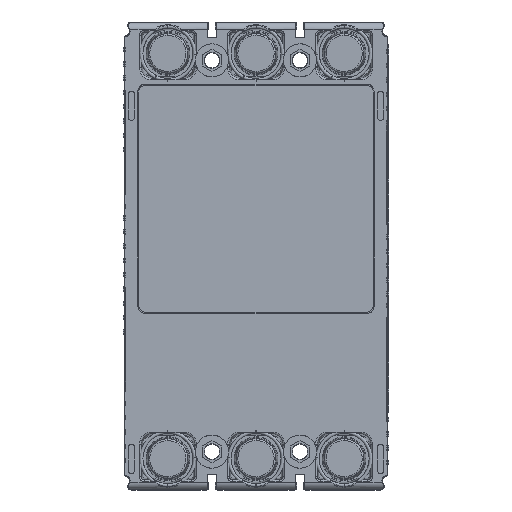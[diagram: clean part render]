
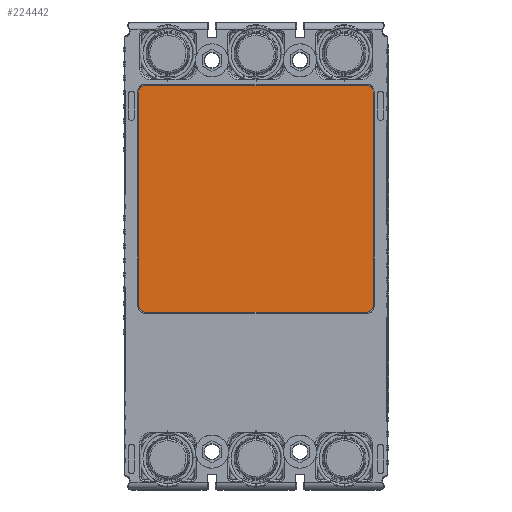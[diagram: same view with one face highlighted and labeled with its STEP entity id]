
A CAD part, front view. The second image highlights one B-rep face of the part: STEP entity #224442.
In plain terms, the highlighted planar face has unit normal (0, -1, 0).
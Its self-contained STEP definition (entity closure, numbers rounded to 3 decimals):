
#70 = CARTESIAN_POINT ( 'NONE',  ( 20.22, -12.927, 116.503 ) ) ;
#364 = VERTEX_POINT ( 'NONE', #126642 ) ;
#683 = ORIENTED_EDGE ( 'NONE', *, *, #118038, .F. ) ;
#2423 = ORIENTED_EDGE ( 'NONE', *, *, #121471, .F. ) ;
#4024 = AXIS2_PLACEMENT_3D ( 'NONE', #155577, #152324, #229033 ) ;
#7024 = ORIENTED_EDGE ( 'NONE', *, *, #239215, .F. ) ;
#12629 = EDGE_CURVE ( 'NONE', #54518, #116820, #139356, .T. ) ;
#12967 = VERTEX_POINT ( 'NONE', #232782 ) ;
#16449 = CARTESIAN_POINT ( 'NONE',  ( -46.28, -12.927, 116.503 ) ) ;
#17352 = EDGE_LOOP ( 'NONE', ( #152312, #137742, #2423, #79759, #683, #7024, #51177, #91909 ) ) ;
#21879 = CARTESIAN_POINT ( 'NONE',  ( -44.28, -12.927, 116.503 ) ) ;
#24662 = VECTOR ( 'NONE', #228782, 1000. ) ;
#39582 = FACE_OUTER_BOUND ( 'NONE', #17352, .T. ) ;
#44573 = DIRECTION ( 'NONE',  ( 0., 0., -1. ) ) ;
#45129 = EDGE_CURVE ( 'NONE', #170755, #54518, #76915, .T. ) ;
#46968 = DIRECTION ( 'NONE',  ( 0., 0., -1. ) ) ;
#47926 = AXIS2_PLACEMENT_3D ( 'NONE', #209891, #229443, #116630 ) ;
#48745 = CARTESIAN_POINT ( 'NONE',  ( -46.28, -12.927, 118.503 ) ) ;
#49424 = CIRCLE ( 'NONE', #193395, 2. ) ;
#51177 = ORIENTED_EDGE ( 'NONE', *, *, #12629, .F. ) ;
#52462 = DIRECTION ( 'NONE',  ( 0., 1., 0. ) ) ;
#54518 = VERTEX_POINT ( 'NONE', #187827 ) ;
#57726 = CIRCLE ( 'NONE', #47926, 2. ) ;
#65059 = CARTESIAN_POINT ( 'NONE',  ( -44.28, -12.927, 179.003 ) ) ;
#68362 = DIRECTION ( 'NONE',  ( 0., 0., -1. ) ) ;
#72798 = DIRECTION ( 'NONE',  ( -1., 0., 0. ) ) ;
#76314 = PLANE ( 'NONE',  #4024 ) ;
#76915 = CIRCLE ( 'NONE', #235858, 2. ) ;
#79759 = ORIENTED_EDGE ( 'NONE', *, *, #151310, .F. ) ;
#91909 = ORIENTED_EDGE ( 'NONE', *, *, #45129, .F. ) ;
#97584 = CARTESIAN_POINT ( 'NONE',  ( 18.22, -12.927, 181.003 ) ) ;
#98220 = DIRECTION ( 'NONE',  ( 0., 0., 1. ) ) ;
#99109 = EDGE_CURVE ( 'NONE', #143037, #118716, #49424, .T. ) ;
#99581 = CARTESIAN_POINT ( 'NONE',  ( 20.22, -12.927, 179.003 ) ) ;
#99679 = CARTESIAN_POINT ( 'NONE',  ( -46.28, -12.927, 181.003 ) ) ;
#101878 = CIRCLE ( 'NONE', #171539, 2. ) ;
#110591 = LINE ( 'NONE', #162365, #122283 ) ;
#116630 = DIRECTION ( 'NONE',  ( 0., 0., -1. ) ) ;
#116820 = VERTEX_POINT ( 'NONE', #21879 ) ;
#118038 = EDGE_CURVE ( 'NONE', #200347, #364, #145267, .T. ) ;
#118716 = VERTEX_POINT ( 'NONE', #99581 ) ;
#121471 = EDGE_CURVE ( 'NONE', #12967, #143037, #167993, .T. ) ;
#122283 = VECTOR ( 'NONE', #68362, 1000. ) ;
#126642 = CARTESIAN_POINT ( 'NONE',  ( -46.28, -12.927, 179.003 ) ) ;
#130689 = VECTOR ( 'NONE', #98220, 1000. ) ;
#137742 = ORIENTED_EDGE ( 'NONE', *, *, #99109, .F. ) ;
#139356 = LINE ( 'NONE', #70, #232872 ) ;
#143037 = VERTEX_POINT ( 'NONE', #97584 ) ;
#145267 = LINE ( 'NONE', #16449, #130689 ) ;
#151310 = EDGE_CURVE ( 'NONE', #364, #12967, #101878, .T. ) ;
#152312 = ORIENTED_EDGE ( 'NONE', *, *, #177927, .F. ) ;
#152324 = DIRECTION ( 'NONE',  ( 0., 1., 0. ) ) ;
#155577 = CARTESIAN_POINT ( 'NONE',  ( -46.28, -12.927, 148.753 ) ) ;
#156716 = CARTESIAN_POINT ( 'NONE',  ( 18.22, -12.927, 179.003 ) ) ;
#162365 = CARTESIAN_POINT ( 'NONE',  ( 20.22, -12.927, 181.003 ) ) ;
#164552 = CARTESIAN_POINT ( 'NONE',  ( 18.22, -12.927, 118.503 ) ) ;
#167993 = LINE ( 'NONE', #99679, #24662 ) ;
#170755 = VERTEX_POINT ( 'NONE', #208709 ) ;
#171539 = AXIS2_PLACEMENT_3D ( 'NONE', #65059, #195781, #46968 ) ;
#177927 = EDGE_CURVE ( 'NONE', #118716, #170755, #110591, .T. ) ;
#187827 = CARTESIAN_POINT ( 'NONE',  ( 18.22, -12.927, 116.503 ) ) ;
#193395 = AXIS2_PLACEMENT_3D ( 'NONE', #156716, #214642, #44573 ) ;
#195781 = DIRECTION ( 'NONE',  ( 0., 1., 0. ) ) ;
#200347 = VERTEX_POINT ( 'NONE', #48745 ) ;
#206993 = DIRECTION ( 'NONE',  ( 0., 0., -1. ) ) ;
#208709 = CARTESIAN_POINT ( 'NONE',  ( 20.22, -12.927, 118.503 ) ) ;
#209891 = CARTESIAN_POINT ( 'NONE',  ( -44.28, -12.927, 118.503 ) ) ;
#214642 = DIRECTION ( 'NONE',  ( 0., 1., 0. ) ) ;
#224442 = ADVANCED_FACE ( 'N', ( #39582 ), #76314, .F. ) ;
#228782 = DIRECTION ( 'NONE',  ( 1., 0., 0. ) ) ;
#229033 = DIRECTION ( 'NONE',  ( 0., 0., 1. ) ) ;
#229443 = DIRECTION ( 'NONE',  ( 0., 1., 0. ) ) ;
#232782 = CARTESIAN_POINT ( 'NONE',  ( -44.28, -12.927, 181.003 ) ) ;
#232872 = VECTOR ( 'NONE', #72798, 1000. ) ;
#235858 = AXIS2_PLACEMENT_3D ( 'NONE', #164552, #52462, #206993 ) ;
#239215 = EDGE_CURVE ( 'NONE', #116820, #200347, #57726, .T. ) ;
